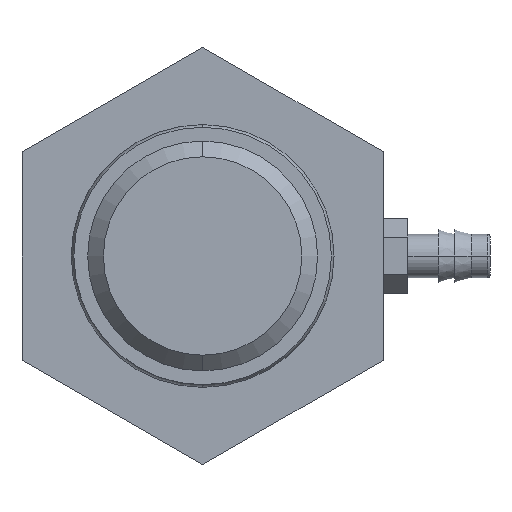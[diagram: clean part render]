
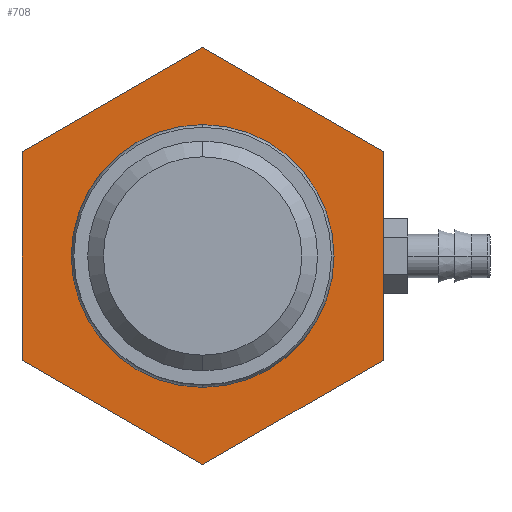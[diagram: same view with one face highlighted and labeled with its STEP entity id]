
A CAD part, left-side view. The second image highlights one B-rep face of the part: STEP entity #708.
In plain terms, the highlighted planar face has unit normal (-1, 0, 0).
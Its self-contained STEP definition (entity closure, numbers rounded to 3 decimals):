
#132=CARTESIAN_POINT('',(-10.597,8.856,-8.002));
#133=VERTEX_POINT('',#132);
#149=CARTESIAN_POINT('',(-10.597,8.856,-8.828));
#150=VERTEX_POINT('',#149);
#157=CARTESIAN_POINT('',(-10.597,8.856,-8.415));
#158=DIRECTION('',(1.0,0.0,0.0));
#159=DIRECTION('',(0.0,0.0,1.0));
#160=AXIS2_PLACEMENT_3D('',#157,#158,#159);
#161=CIRCLE('',#160,0.413);
#162=EDGE_CURVE('',#133,#150,#161,.T.);
#469=CARTESIAN_POINT('',(-10.597,8.856,-8.415));
#470=DIRECTION('',(1.0,0.0,0.0));
#471=DIRECTION('',(0.0,0.0,1.0));
#472=AXIS2_PLACEMENT_3D('',#469,#470,#471);
#473=CIRCLE('',#472,0.413);
#474=EDGE_CURVE('',#150,#133,#473,.T.);
#506=CARTESIAN_POINT('',(-10.597,8.168,-8.812));
#507=VERTEX_POINT('',#506);
#514=CARTESIAN_POINT('',(-10.597,8.856,-9.209));
#515=VERTEX_POINT('',#514);
#516=CARTESIAN_POINT('',(-10.597,8.856,-9.209));
#517=DIRECTION('',(0.0,-0.866,0.5));
#518=VECTOR('',#517,0.794);
#519=LINE('',#516,#518);
#520=EDGE_CURVE('',#515,#507,#519,.T.);
#544=CARTESIAN_POINT('',(-10.597,8.168,-8.018));
#545=VERTEX_POINT('',#544);
#552=CARTESIAN_POINT('',(-10.597,8.168,-8.812));
#553=DIRECTION('',(0.0,0.0,1.0));
#554=VECTOR('',#553,0.794);
#555=LINE('',#552,#554);
#556=EDGE_CURVE('',#507,#545,#555,.T.);
#575=CARTESIAN_POINT('',(-10.597,8.856,-7.621));
#576=VERTEX_POINT('',#575);
#583=CARTESIAN_POINT('',(-10.597,8.168,-8.018));
#584=DIRECTION('',(0.0,0.866,0.5));
#585=VECTOR('',#584,0.794);
#586=LINE('',#583,#585);
#587=EDGE_CURVE('',#545,#576,#586,.T.);
#606=CARTESIAN_POINT('',(-10.597,9.543,-8.018));
#607=VERTEX_POINT('',#606);
#614=CARTESIAN_POINT('',(-10.597,8.856,-7.621));
#615=DIRECTION('',(0.0,0.866,-0.5));
#616=VECTOR('',#615,0.794);
#617=LINE('',#614,#616);
#618=EDGE_CURVE('',#576,#607,#617,.T.);
#637=CARTESIAN_POINT('',(-10.597,9.543,-8.812));
#638=VERTEX_POINT('',#637);
#645=CARTESIAN_POINT('',(-10.597,9.543,-8.018));
#646=DIRECTION('',(0.0,0.0,-1.0));
#647=VECTOR('',#646,0.794);
#648=LINE('',#645,#647);
#649=EDGE_CURVE('',#607,#638,#648,.T.);
#667=CARTESIAN_POINT('',(-10.597,9.543,-8.812));
#668=DIRECTION('',(0.0,-0.866,-0.5));
#669=VECTOR('',#668,0.794);
#670=LINE('',#667,#669);
#671=EDGE_CURVE('',#638,#515,#670,.T.);
#691=CARTESIAN_POINT('',(-10.597,8.856,-8.415));
#692=DIRECTION('',(1.0,0.0,0.0));
#693=DIRECTION('',(0.0,0.0,-1.0));
#694=AXIS2_PLACEMENT_3D('',#691,#692,#693);
#695=PLANE('',#694);
#696=ORIENTED_EDGE('',*,*,#671,.T.);
#697=ORIENTED_EDGE('',*,*,#520,.T.);
#698=ORIENTED_EDGE('',*,*,#556,.T.);
#699=ORIENTED_EDGE('',*,*,#587,.T.);
#700=ORIENTED_EDGE('',*,*,#618,.T.);
#701=ORIENTED_EDGE('',*,*,#649,.T.);
#702=EDGE_LOOP('',(#696,#697,#698,#699,#700,#701));
#703=FACE_OUTER_BOUND('',#702,.T.);
#704=ORIENTED_EDGE('',*,*,#162,.T.);
#705=ORIENTED_EDGE('',*,*,#474,.T.);
#706=EDGE_LOOP('',(#704,#705));
#707=FACE_BOUND('',#706,.T.);
#708=ADVANCED_FACE('',(#703,#707),#695,.F.);
